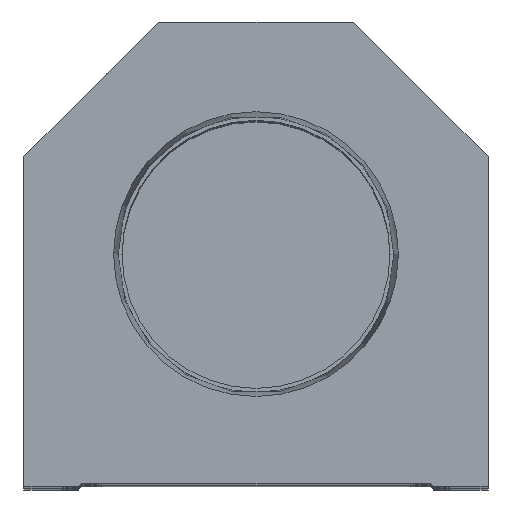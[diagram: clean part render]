
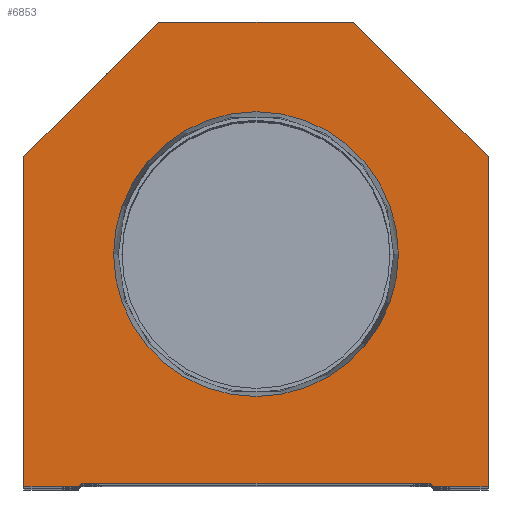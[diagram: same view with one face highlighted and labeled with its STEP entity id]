
A CAD part, top view. The second image highlights one B-rep face of the part: STEP entity #6853.
In plain terms, the highlighted planar face has unit normal (0, 0, 1).
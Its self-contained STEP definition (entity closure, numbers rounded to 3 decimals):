
#269 = DIRECTION ( 'NONE',  ( 0., -1., 0. ) ) ;
#563 = VERTEX_POINT ( 'NONE', #13501 ) ;
#994 = CARTESIAN_POINT ( 'NONE',  ( -23.374, 38.1, 0. ) ) ;
#1022 = DIRECTION ( 'NONE',  ( 1., 0., 0. ) ) ;
#1063 = CARTESIAN_POINT ( 'NONE',  ( -28.6, 0., 0. ) ) ;
#1077 = VERTEX_POINT ( 'NONE', #23519 ) ;
#1242 = ORIENTED_EDGE ( 'NONE', *, *, #11614, .T. ) ;
#1280 = VECTOR ( 'NONE', #16200, 1000. ) ;
#1965 = VECTOR ( 'NONE', #19690, 1000. ) ;
#2166 = CARTESIAN_POINT ( 'NONE',  ( 38.1, 54.1, 0. ) ) ;
#2322 = LINE ( 'NONE', #18652, #14401 ) ;
#2515 = VERTEX_POINT ( 'NONE', #7946 ) ;
#2801 = AXIS2_PLACEMENT_3D ( 'NONE', #7643, #5618, #9922 ) ;
#3403 = EDGE_LOOP ( 'NONE', ( #16810, #3485 ) ) ;
#3485 = ORIENTED_EDGE ( 'NONE', *, *, #16107, .F. ) ;
#3769 = CARTESIAN_POINT ( 'NONE',  ( -14.55, 14.55, 0. ) ) ;
#3836 = LINE ( 'NONE', #6742, #3935 ) ;
#3915 = ORIENTED_EDGE ( 'NONE', *, *, #8318, .T. ) ;
#3935 = VECTOR ( 'NONE', #10797, 1000. ) ;
#4363 = CARTESIAN_POINT ( 'NONE',  ( -38.1, 0., 0. ) ) ;
#5597 = EDGE_CURVE ( 'NONE', #16647, #1077, #2322, .T. ) ;
#5618 = DIRECTION ( 'NONE',  ( 0., 0., 1. ) ) ;
#5823 = CARTESIAN_POINT ( 'NONE',  ( 14.55, 14.55, 0. ) ) ;
#5881 = PLANE ( 'NONE',  #2801 ) ;
#6742 = CARTESIAN_POINT ( 'NONE',  ( -28.6, 0.5, 0. ) ) ;
#6853 = ADVANCED_FACE ( 'NONE', ( #16119, #10056 ), #5881, .T. ) ;
#6899 = EDGE_LOOP ( 'NONE', ( #24199, #11667, #12224, #24498, #16686, #1242, #3915, #23097, #11388, #12018 ) ) ;
#7243 = LINE ( 'NONE', #23594, #17915 ) ;
#7376 = EDGE_CURVE ( 'NONE', #17830, #16647, #22058, .T. ) ;
#7643 = CARTESIAN_POINT ( 'NONE',  ( 0., 0., 0. ) ) ;
#7721 = AXIS2_PLACEMENT_3D ( 'NONE', #11200, #19355, #1022 ) ;
#7946 = CARTESIAN_POINT ( 'NONE',  ( 38.1, 0., 0. ) ) ;
#8318 = EDGE_CURVE ( 'NONE', #21422, #17830, #22338, .T. ) ;
#8371 = AXIS2_PLACEMENT_3D ( 'NONE', #19595, #13868, #11581 ) ;
#8734 = EDGE_CURVE ( 'NONE', #14618, #9725, #11168, .T. ) ;
#8890 = DIRECTION ( 'NONE',  ( -0.707, -0.707, 0. ) ) ;
#9725 = VERTEX_POINT ( 'NONE', #994 ) ;
#9922 = DIRECTION ( 'NONE',  ( 1., 0., 0. ) ) ;
#10056 = FACE_OUTER_BOUND ( 'NONE', #6899, .T. ) ;
#10265 = EDGE_CURVE ( 'NONE', #563, #14008, #22605, .T. ) ;
#10797 = DIRECTION ( 'NONE',  ( 1., 0., 0. ) ) ;
#11112 = DIRECTION ( 'NONE',  ( 1., 0., 0. ) ) ;
#11168 = CIRCLE ( 'NONE', #7721, 23.374 ) ;
#11200 = CARTESIAN_POINT ( 'NONE',  ( 0., 38.1, 0. ) ) ;
#11388 = ORIENTED_EDGE ( 'NONE', *, *, #5597, .T. ) ;
#11568 = CARTESIAN_POINT ( 'NONE',  ( 28.6, 0.5, 0. ) ) ;
#11581 = DIRECTION ( 'NONE',  ( 1., 0., 0. ) ) ;
#11614 = EDGE_CURVE ( 'NONE', #2515, #21422, #7243, .T. ) ;
#11667 = ORIENTED_EDGE ( 'NONE', *, *, #10265, .T. ) ;
#11675 = CARTESIAN_POINT ( 'NONE',  ( 28.6, 0., 0. ) ) ;
#11820 = DIRECTION ( 'NONE',  ( 0.707, 0.707, 0. ) ) ;
#11903 = CARTESIAN_POINT ( 'NONE',  ( -28.6, 0.5, 0. ) ) ;
#12011 = VECTOR ( 'NONE', #24351, 1000. ) ;
#12018 = ORIENTED_EDGE ( 'NONE', *, *, #14687, .T. ) ;
#12069 = VERTEX_POINT ( 'NONE', #11568 ) ;
#12224 = ORIENTED_EDGE ( 'NONE', *, *, #14820, .T. ) ;
#12443 = CARTESIAN_POINT ( 'NONE',  ( 23.374, 38.1, 0. ) ) ;
#12502 = VECTOR ( 'NONE', #269, 1000. ) ;
#12532 = CARTESIAN_POINT ( 'NONE',  ( 16., 76.2, 0. ) ) ;
#12696 = CARTESIAN_POINT ( 'NONE',  ( 29.1, 0., 0. ) ) ;
#13453 = DIRECTION ( 'NONE',  ( 0., 1., 0. ) ) ;
#13501 = CARTESIAN_POINT ( 'NONE',  ( -29.1, 0., 0. ) ) ;
#13527 = CARTESIAN_POINT ( 'NONE',  ( -38.1, 0., 0. ) ) ;
#13816 = CARTESIAN_POINT ( 'NONE',  ( 16., 76.2, 0. ) ) ;
#13868 = DIRECTION ( 'NONE',  ( 0., 0., 1. ) ) ;
#14008 = VERTEX_POINT ( 'NONE', #11903 ) ;
#14131 = VERTEX_POINT ( 'NONE', #12696 ) ;
#14401 = VECTOR ( 'NONE', #8890, 1000. ) ;
#14420 = VECTOR ( 'NONE', #15955, 1000. ) ;
#14618 = VERTEX_POINT ( 'NONE', #12443 ) ;
#14687 = EDGE_CURVE ( 'NONE', #1077, #16898, #18565, .T. ) ;
#14820 = EDGE_CURVE ( 'NONE', #14008, #12069, #3836, .T. ) ;
#15417 = LINE ( 'NONE', #1063, #16157 ) ;
#15448 = LINE ( 'NONE', #11675, #1965 ) ;
#15502 = EDGE_CURVE ( 'NONE', #14131, #2515, #15448, .T. ) ;
#15955 = DIRECTION ( 'NONE',  ( -1., 0., 0. ) ) ;
#16107 = EDGE_CURVE ( 'NONE', #9725, #14618, #16130, .T. ) ;
#16119 = FACE_BOUND ( 'NONE', #3403, .T. ) ;
#16130 = CIRCLE ( 'NONE', #8371, 23.374 ) ;
#16157 = VECTOR ( 'NONE', #11112, 1000. ) ;
#16200 = DIRECTION ( 'NONE',  ( 0.707, -0.707, 0. ) ) ;
#16647 = VERTEX_POINT ( 'NONE', #24765 ) ;
#16686 = ORIENTED_EDGE ( 'NONE', *, *, #15502, .T. ) ;
#16810 = ORIENTED_EDGE ( 'NONE', *, *, #8734, .F. ) ;
#16898 = VERTEX_POINT ( 'NONE', #13527 ) ;
#17830 = VERTEX_POINT ( 'NONE', #12532 ) ;
#17915 = VECTOR ( 'NONE', #13453, 1000. ) ;
#18053 = CARTESIAN_POINT ( 'NONE',  ( 38.1, 54.1, 0. ) ) ;
#18565 = LINE ( 'NONE', #4363, #12502 ) ;
#18652 = CARTESIAN_POINT ( 'NONE',  ( -38.1, 54.1, 0. ) ) ;
#18955 = EDGE_CURVE ( 'NONE', #12069, #14131, #22039, .T. ) ;
#19355 = DIRECTION ( 'NONE',  ( 0., 0., 1. ) ) ;
#19595 = CARTESIAN_POINT ( 'NONE',  ( 0., 38.1, 0. ) ) ;
#19690 = DIRECTION ( 'NONE',  ( 1., 0., 0. ) ) ;
#21422 = VERTEX_POINT ( 'NONE', #2166 ) ;
#22039 = LINE ( 'NONE', #5823, #1280 ) ;
#22058 = LINE ( 'NONE', #13816, #14420 ) ;
#22338 = LINE ( 'NONE', #18053, #12011 ) ;
#22605 = LINE ( 'NONE', #3769, #24268 ) ;
#23097 = ORIENTED_EDGE ( 'NONE', *, *, #7376, .T. ) ;
#23519 = CARTESIAN_POINT ( 'NONE',  ( -38.1, 54.1, 0. ) ) ;
#23594 = CARTESIAN_POINT ( 'NONE',  ( 38.1, 0., 0. ) ) ;
#24199 = ORIENTED_EDGE ( 'NONE', *, *, #24827, .T. ) ;
#24268 = VECTOR ( 'NONE', #11820, 1000. ) ;
#24351 = DIRECTION ( 'NONE',  ( -0.707, 0.707, 0. ) ) ;
#24498 = ORIENTED_EDGE ( 'NONE', *, *, #18955, .T. ) ;
#24765 = CARTESIAN_POINT ( 'NONE',  ( -16., 76.2, 0. ) ) ;
#24827 = EDGE_CURVE ( 'NONE', #16898, #563, #15417, .T. ) ;
